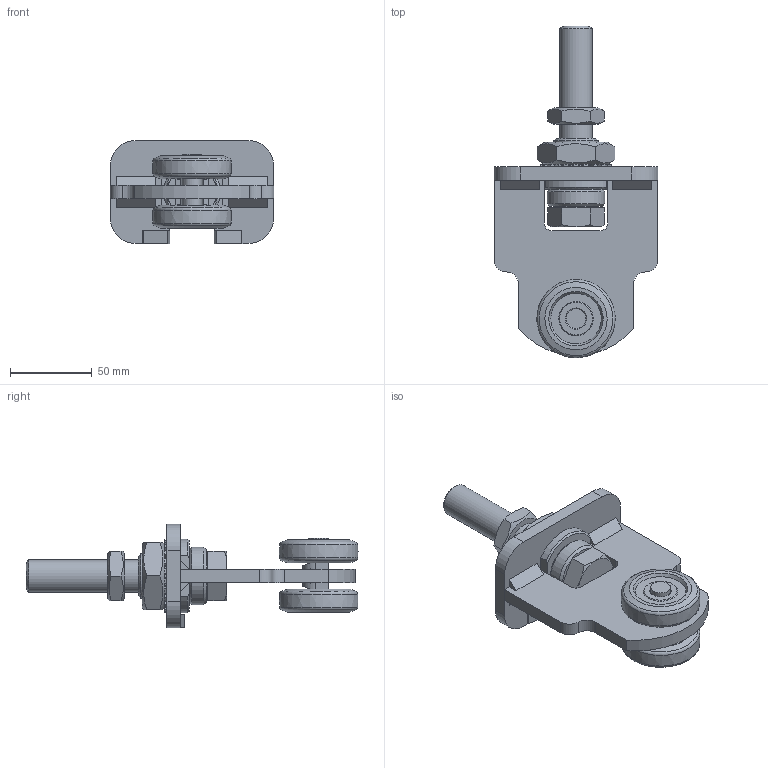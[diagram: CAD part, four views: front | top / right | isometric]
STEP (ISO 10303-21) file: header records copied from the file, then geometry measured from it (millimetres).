
FILE_DESCRIPTION(/* description */ ('Einfachrolle Horizontal Nr.3'),/* implementation_level */ '2;1');
FILE_NAME(/* name */ 'Q:\sge-ma\Produktmanagement-STB\STB\Workspace\TraceParts\Einfachrolle horizontal drehbar\010336362.stp',/* time_stamp */ '2018-03-02T10:05:23+01:00',/* author */ ('avschreier'),/* organization */ (''),/* preprocessor_version */ 'ST-DEVELOPER v16.1',/* originating_system */ 'Autodesk Inventor 2016',/* authorisation */ '');
FILE_SCHEMA (('CONFIG_CONTROL_DESIGN'));
Length unit declared in the file: millimetre
Products named in the file (13): 010336362_Schweißnähte; 000302069; 000302071; 000303237; 336290030; 000304012; 000302011; 000302012; DIN_EN_ISO_4035-M20_en; DIN_EN_ISO_4035-M27_en; DIN_6798-A_28_en; DIN_EN_ISO_4017-M20x110_en; 010336362
Assembly tree (14 placements, depth 2):
  010336362
    010336362_Schweißnähte
    000302069
    000302071
    000303237  x2
    336290030  x2
    000304012
    000302011
    000302012
    DIN_EN_ISO_4035-M20_en
    DIN_EN_ISO_4035-M27_en
    DIN_6798-A_28_en
    DIN_EN_ISO_4017-M20x110_en
Bounding box: 100 x 202.5 x 63 mm (x, y, z)
Volume: 227852.2 mm3; surface area: 78235.7 mm2
Topology: 17 solids, 17 shells, 414 faces, 1046 edges, 677 vertices
Faces by surface type: plane 219, cylinder 130, cone 43, bspline 18, torus 4
Full cylindrical faces by diameter (mm): 12 x3, 14 x1, 17.294 x1, 18.647 x1, 20 x2, 20.5 x1, 23.752 x1, 27 x1, 27.7 x1, 28 x1, 35 x1
Entity records: 11953 total; most frequent: CARTESIAN_POINT 3044, DIRECTION 1872, ORIENTED_EDGE 1736, EDGE_CURVE 868, AXIS2_PLACEMENT_3D 685, VERTEX_POINT 589, LINE 502, VECTOR 502
